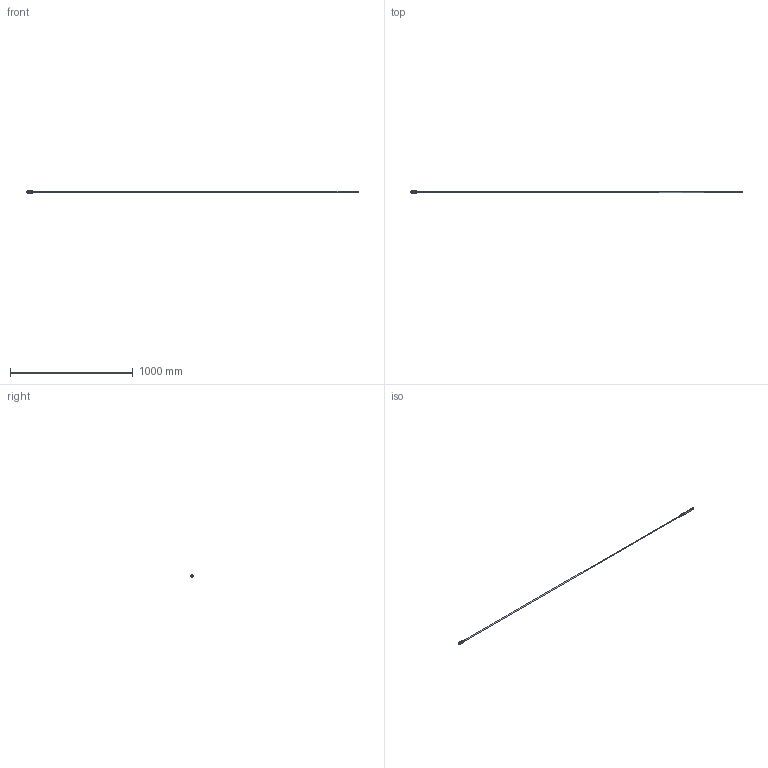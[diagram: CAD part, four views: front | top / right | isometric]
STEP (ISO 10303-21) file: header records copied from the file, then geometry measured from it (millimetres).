
FILE_DESCRIPTION (( 'STEP AP203' ), '1' );
FILE_NAME ('Model D - Assemblage.STEP', '2021-08-09T15:25:12', ( '' ), ( '' ), 'SwSTEP 2.0', 'SolidWorks 2016', '' );
FILE_SCHEMA (( 'CONFIG_CONTROL_DESIGN' ));
Length unit declared in the file: millimetre
Products named in the file (4): Model D - Assemblage; fgg_3b_809_clad823; emile_maurin_622082X6; Model D
Assembly tree (3 placements, depth 2):
  Model D - Assemblage
    fgg_3b_809_clad823
    Model D
    emile_maurin_622082X6
Bounding box: 2700.5 x 17.97 x 18 mm (x, y, z)
Volume: 157096.9 mm3; surface area: 74740.8 mm2
Topology: 4 solids, 4 shells, 497 faces, 1325 edges, 847 vertices
Faces by surface type: plane 298, cylinder 131, cone 61, bspline 5, torus 2
Full cylindrical faces by diameter (mm): 2.5 x1, 8.146 x1, 14.25 x1, 15 x2, 16.5 x2
Entity records: 16429 total; most frequent: CARTESIAN_POINT 4482, ORIENTED_EDGE 2596, DIRECTION 2140, EDGE_CURVE 1298, VERTEX_POINT 842, AXIS2_PLACEMENT_3D 823, EDGE_LOOP 530, FACE_OUTER_BOUND 507
